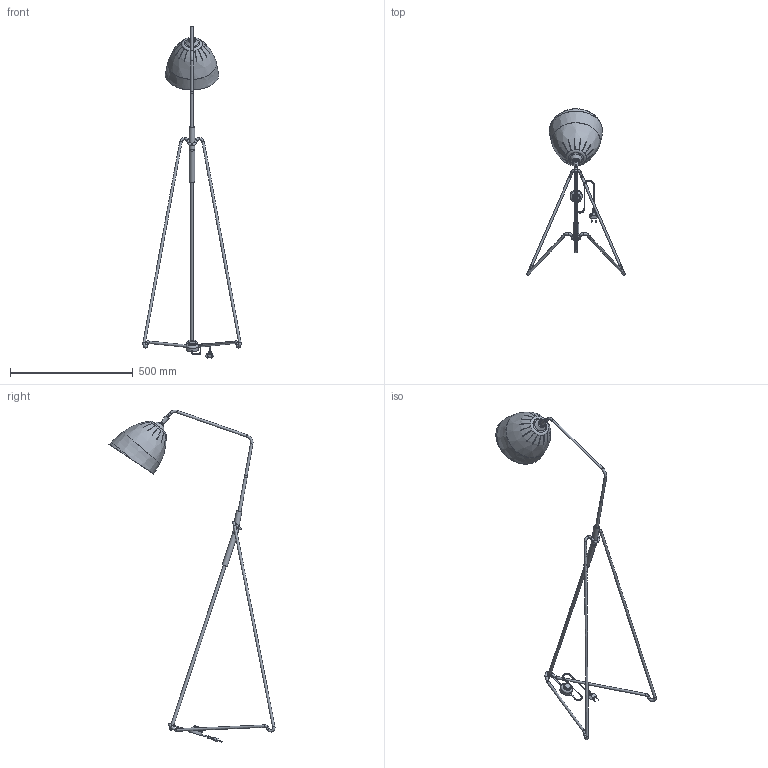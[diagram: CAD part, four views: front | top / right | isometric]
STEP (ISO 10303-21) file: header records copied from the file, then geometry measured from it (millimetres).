
FILE_DESCRIPTION( ( 'Unknown' ), '1' );
FILE_NAME( 'R:/Filer utan backup/step/Till hemsidan/Lean golv.stp', 'Unknown', ( 'Unknown' ), ( 'Unknown' ), 'PSStep 16.0.42', 'Unknown', ' ' );
FILE_SCHEMA( ( 'AUTOMOTIVE_DESIGN { 1 0 10303 214 1 1 1 1 }' ) );
Length unit declared in the file: millimetre
Products named in the file (1): T39-11-3 Arm bockad golvl Cos
Bounding box: 399.44 x 675.93 x 1351.37 mm (x, y, z)
Volume: 527097.2 mm3; surface area: 440057.8 mm2
Topology: 1 solids, 1 shells, 491 faces, 1338 edges, 834 vertices
Faces by surface type: plane 199, cylinder 169, bspline 59, sphere 29, torus 29, cone 6
Full cylindrical faces by diameter (mm): 2.459 x2, 2.5 x1, 3 x2, 3.5 x2, 4 x4, 4.5 x2, 6 x2, 7 x4, 7.5 x2, 8.5 x1, 8.8 x2, 9.8 x1, 10 x6, 11.5 x1, 12 x2, 13 x3, 16 x1, 19 x1, 22 x2, 31 x1, 50 x1
Entity records: 30785 total; most frequent: CARTESIAN_POINT 16242, ORIENTED_EDGE 2278, DIRECTION 2007, EDGE_CURVE 1139, AXIS2_PLACEMENT_3D 792, VERTEX_POINT 768, EDGE_LOOP 648, FACE_OUTER_BOUND 567
